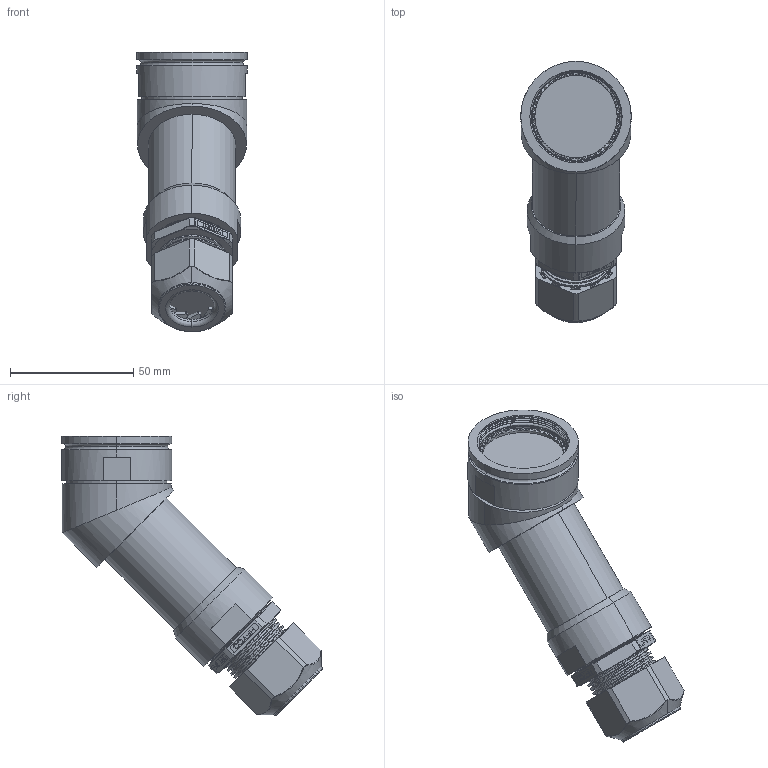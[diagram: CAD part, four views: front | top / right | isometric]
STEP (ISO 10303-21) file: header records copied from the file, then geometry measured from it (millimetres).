
FILE_DESCRIPTION (( 'STEP AP214' ), '1' );
FILE_NAME ('Q38SHELL-45X-25-XXXX-GL.STEP', '2025-09-26T14:40:16', ( '' ), ( '' ), 'SwSTEP 2.0', 'SolidWorks 2024', '' );
FILE_SCHEMA (( 'AUTOMOTIVE_DESIGN' ));
Length unit declared in the file: millimetre
Products named in the file (1): Q38SHELL-45X-25-XXXX-GL
Bounding box: 44.88 x 106.04 x 113.7 mm (x, y, z)
Surface area: 40244.2 mm2 (no closed solid volume)
Topology: 0 solids, 9 shells, 1404 faces, 3782 edges, 2448 vertices
Faces by surface type: plane 759, cylinder 247, bspline 140, torus 121, cone 117, sphere 20
Entity records: 64940 total; most frequent: CARTESIAN_POINT 36578, ORIENTED_EDGE 7515, EDGE_CURVE 3782, DIRECTION 3496, B_SPLINE_CURVE_WITH_KNOTS 2833, VERTEX_POINT 2448, AXIS2_PLACEMENT_3D 1587, EDGE_LOOP 1474
